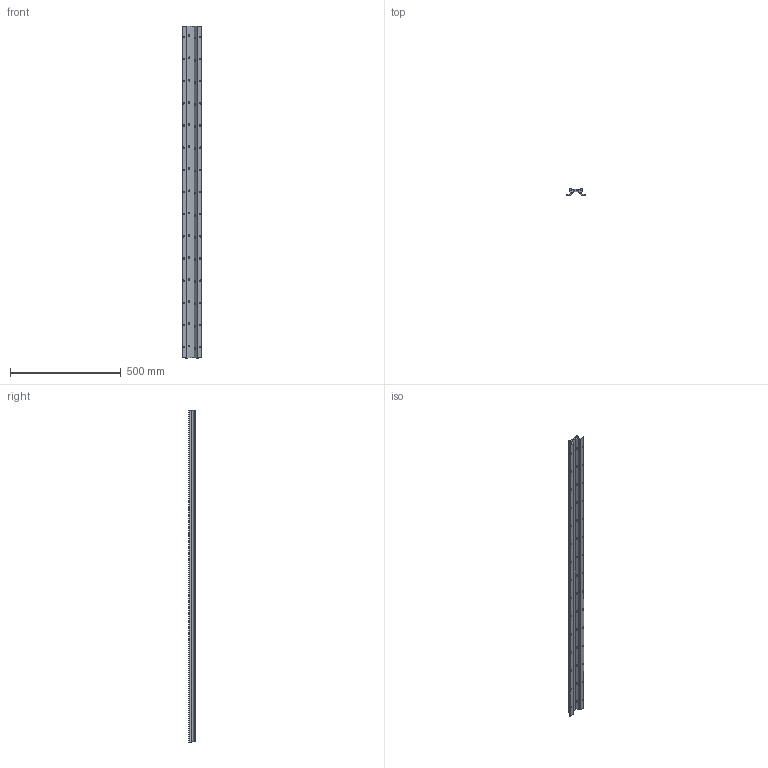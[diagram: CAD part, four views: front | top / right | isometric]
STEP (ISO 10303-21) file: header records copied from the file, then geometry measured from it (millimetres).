
FILE_DESCRIPTION (( 'STEP AP203' ), '1' );
FILE_NAME ('LF 3_-_LF 2 1498 mm lang.step', '2005-06-03T06:31:57', ( ' ' ), ( ' ' ), 'SwSTEP 2.0', 'SolidWorks 2004231', '' );
FILE_SCHEMA (( 'CONFIG_CONTROL_DESIGN' ));
Length unit declared in the file: millimetre
Products named in the file (1): LF 3_-_LF 2  1498 mm lang
Bounding box: 90 x 31 x 1498 mm (x, y, z)
Volume: 1568208.5 mm3; surface area: 483631 mm2
Topology: 1 solids, 1 shells, 699 faces, 1765 edges, 1064 vertices
Faces by surface type: cylinder 319, plane 260, cone 60, torus 60
Entity records: 21196 total; most frequent: CARTESIAN_POINT 5419, ORIENTED_EDGE 3410, DIRECTION 3031, EDGE_CURVE 1705, AXIS2_PLACEMENT_3D 1076, VERTEX_POINT 1064, LINE 879, VECTOR 879
